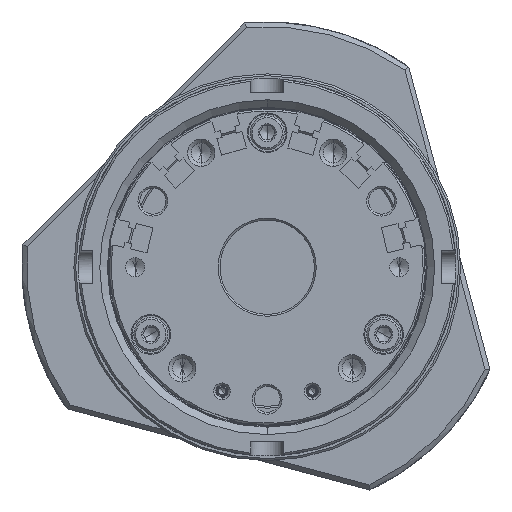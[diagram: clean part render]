
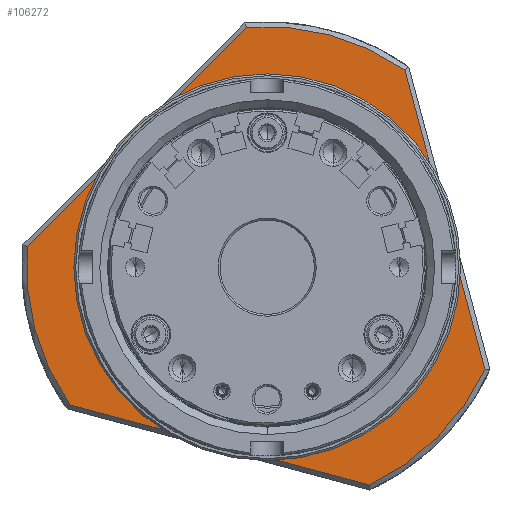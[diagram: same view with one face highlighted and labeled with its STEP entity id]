
A CAD part, front view. The second image highlights one B-rep face of the part: STEP entity #106272.
In plain terms, the highlighted planar face has unit normal (0, -1, 0).
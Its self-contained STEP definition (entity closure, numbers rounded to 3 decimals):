
#17 = EDGE_CURVE ( 'NONE', #2334, #36302, #85400, .T. ) ;
#1995 = ORIENTED_EDGE ( 'NONE', *, *, #115446, .T. ) ;
#2334 = VERTEX_POINT ( 'NONE', #49285 ) ;
#4540 = EDGE_CURVE ( 'NONE', #101528, #8924, #42721, .T. ) ;
#4749 = CARTESIAN_POINT ( 'NONE',  ( -17.343, 1., -47.96 ) ) ;
#5668 = DIRECTION ( 'NONE',  ( 0., 0., -1. ) ) ;
#7996 = EDGE_CURVE ( 'NONE', #27309, #42829, #124030, .T. ) ;
#8924 = VERTEX_POINT ( 'NONE', #117292 ) ;
#13611 = CARTESIAN_POINT ( 'NONE',  ( 0., 1., 37.1 ) ) ;
#14748 = VERTEX_POINT ( 'NONE', #75065 ) ;
#15817 = ORIENTED_EDGE ( 'NONE', *, *, #123652, .F. ) ;
#19770 = DIRECTION ( 'NONE',  ( 0., 1., 0. ) ) ;
#19837 = CARTESIAN_POINT ( 'NONE',  ( 0., 1., 0. ) ) ;
#21671 = DIRECTION ( 'NONE',  ( 0., 0., 1. ) ) ;
#22954 = CARTESIAN_POINT ( 'NONE',  ( 0., 1., 0. ) ) ;
#24419 = ORIENTED_EDGE ( 'NONE', *, *, #7996, .T. ) ;
#27309 = VERTEX_POINT ( 'NONE', #89825 ) ;
#29971 = CARTESIAN_POINT ( 'NONE',  ( 0., 1., 0. ) ) ;
#30400 = ORIENTED_EDGE ( 'NONE', *, *, #60586, .T. ) ;
#30885 = LINE ( 'NONE', #107465, #39667 ) ;
#31110 = ORIENTED_EDGE ( 'NONE', *, *, #4540, .T. ) ;
#32950 = ORIENTED_EDGE ( 'NONE', *, *, #17, .T. ) ;
#35737 = CIRCLE ( 'NONE', #107055, 51. ) ;
#36302 = VERTEX_POINT ( 'NONE', #4749 ) ;
#38251 = CIRCLE ( 'NONE', #125903, 37.1 ) ;
#39667 = VECTOR ( 'NONE', #69153, 1000. ) ;
#40216 = ORIENTED_EDGE ( 'NONE', *, *, #106961, .F. ) ;
#42721 = LINE ( 'NONE', #111620, #69467 ) ;
#42829 = VERTEX_POINT ( 'NONE', #13611 ) ;
#43639 = CARTESIAN_POINT ( 'NONE',  ( 0., 1., 0. ) ) ;
#45848 = DIRECTION ( 'NONE',  ( 0.5, 0., -0.866 ) ) ;
#46070 = AXIS2_PLACEMENT_3D ( 'NONE', #22954, #51645, #59314 ) ;
#48902 = CIRCLE ( 'NONE', #73410, 51. ) ;
#49285 = CARTESIAN_POINT ( 'NONE',  ( -50.207, 1., 8.96 ) ) ;
#51198 = EDGE_LOOP ( 'NONE', ( #15817, #32950, #40216, #30400, #117725, #31110 ) ) ;
#51645 = DIRECTION ( 'NONE',  ( 0., 1., 0. ) ) ;
#53529 = FACE_OUTER_BOUND ( 'NONE', #51198, .T. ) ;
#54444 = DIRECTION ( 'NONE',  ( 0., 1., 0. ) ) ;
#56870 = DIRECTION ( 'NONE',  ( 0., 0., 1. ) ) ;
#58733 = DIRECTION ( 'NONE',  ( 0., 1., 0. ) ) ;
#59314 = DIRECTION ( 'NONE',  ( 0., 0., 1. ) ) ;
#59873 = CARTESIAN_POINT ( 'NONE',  ( 17.343, 1., -47.96 ) ) ;
#60586 = EDGE_CURVE ( 'NONE', #90321, #14748, #30885, .T. ) ;
#61848 = CARTESIAN_POINT ( 'NONE',  ( 0., 1., 0. ) ) ;
#61944 = VECTOR ( 'NONE', #45848, 1000. ) ;
#63690 = DIRECTION ( 'NONE',  ( 0., -1., 0. ) ) ;
#67468 = CARTESIAN_POINT ( 'NONE',  ( -49.84, 1., 8.325 ) ) ;
#69153 = DIRECTION ( 'NONE',  ( 0.5, 0., 0.866 ) ) ;
#69467 = VECTOR ( 'NONE', #81643, 1000. ) ;
#71551 = EDGE_LOOP ( 'NONE', ( #1995, #24419 ) ) ;
#73410 = AXIS2_PLACEMENT_3D ( 'NONE', #61848, #91210, #100786 ) ;
#75065 = CARTESIAN_POINT ( 'NONE',  ( 50.207, 1., 8.96 ) ) ;
#75311 = EDGE_CURVE ( 'NONE', #101528, #14748, #35737, .T. ) ;
#80662 = CIRCLE ( 'NONE', #46070, 51. ) ;
#81643 = DIRECTION ( 'NONE',  ( -1., 0., 0. ) ) ;
#82548 = DIRECTION ( 'NONE',  ( 0., 0., 1. ) ) ;
#82687 = AXIS2_PLACEMENT_3D ( 'NONE', #112233, #63690, #5668 ) ;
#82874 = FACE_BOUND ( 'NONE', #71551, .T. ) ;
#85400 = LINE ( 'NONE', #67468, #61944 ) ;
#89825 = CARTESIAN_POINT ( 'NONE',  ( 0., 1., -37.1 ) ) ;
#90321 = VERTEX_POINT ( 'NONE', #59873 ) ;
#91210 = DIRECTION ( 'NONE',  ( 0., 1., 0. ) ) ;
#97482 = AXIS2_PLACEMENT_3D ( 'NONE', #29971, #19770, #21671 ) ;
#100786 = DIRECTION ( 'NONE',  ( 0., 0., 1. ) ) ;
#101528 = VERTEX_POINT ( 'NONE', #106161 ) ;
#106161 = CARTESIAN_POINT ( 'NONE',  ( 32.863, 1., 39. ) ) ;
#106272 = ADVANCED_FACE ( 'NONE', ( #82874, #53529 ), #121822, .T. ) ;
#106961 = EDGE_CURVE ( 'NONE', #90321, #36302, #80662, .T. ) ;
#107055 = AXIS2_PLACEMENT_3D ( 'NONE', #19837, #58733, #56870 ) ;
#107465 = CARTESIAN_POINT ( 'NONE',  ( 49.84, 1., 8.325 ) ) ;
#111620 = CARTESIAN_POINT ( 'NONE',  ( 0., 1., 39. ) ) ;
#112233 = CARTESIAN_POINT ( 'NONE',  ( 0., 1., 37.1 ) ) ;
#115446 = EDGE_CURVE ( 'NONE', #42829, #27309, #38251, .T. ) ;
#117292 = CARTESIAN_POINT ( 'NONE',  ( -32.863, 1., 39. ) ) ;
#117725 = ORIENTED_EDGE ( 'NONE', *, *, #75311, .F. ) ;
#121822 = PLANE ( 'NONE',  #82687 ) ;
#123652 = EDGE_CURVE ( 'NONE', #2334, #8924, #48902, .T. ) ;
#124030 = CIRCLE ( 'NONE', #97482, 37.1 ) ;
#125903 = AXIS2_PLACEMENT_3D ( 'NONE', #43639, #54444, #82548 ) ;
